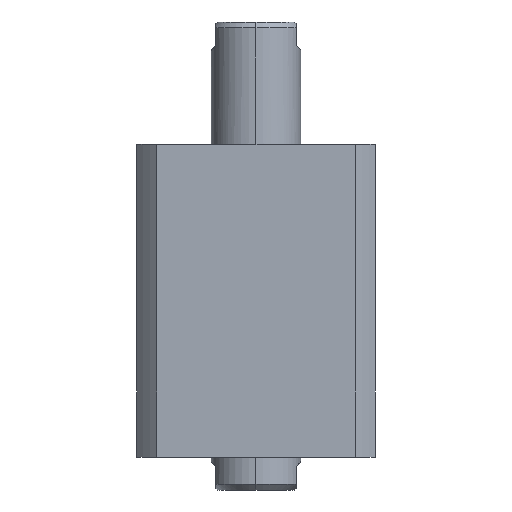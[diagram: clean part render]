
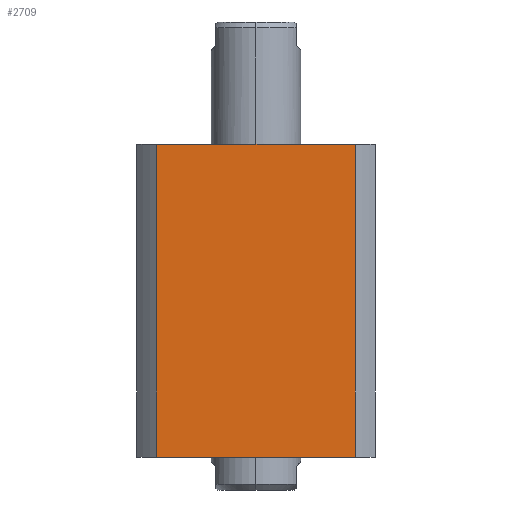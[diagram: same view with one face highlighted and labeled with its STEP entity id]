
A CAD part, left-side view. The second image highlights one B-rep face of the part: STEP entity #2709.
In plain terms, the highlighted planar face has unit normal (-1, 0, 0).
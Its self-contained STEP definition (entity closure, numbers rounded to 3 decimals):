
#120 = VERTEX_POINT ( 'NONE', #5897 ) ;
#772 = DIRECTION ( 'NONE',  ( 0., 1., 0. ) ) ;
#877 = FACE_OUTER_BOUND ( 'NONE', #2185, .T. ) ;
#1147 = CARTESIAN_POINT ( 'NONE',  ( -40., 33.226, 52.5 ) ) ;
#1271 = CARTESIAN_POINT ( 'NONE',  ( -40., 33.226, 52.5 ) ) ;
#2136 = LINE ( 'NONE', #1147, #9007 ) ;
#2158 = EDGE_CURVE ( 'NONE', #5864, #4038, #9771, .T. ) ;
#2172 = ORIENTED_EDGE ( 'NONE', *, *, #2158, .F. ) ;
#2185 = EDGE_LOOP ( 'NONE', ( #8942, #5099, #2172, #2881 ) ) ;
#2312 = DIRECTION ( 'NONE',  ( 0., -1., 0. ) ) ;
#2367 = DIRECTION ( 'NONE',  ( 1., 0., 0. ) ) ;
#2596 = CARTESIAN_POINT ( 'NONE',  ( -40., 33.226, -52.5 ) ) ;
#2709 = ADVANCED_FACE ( 'NONE', ( #877 ), #9069, .F. ) ;
#2881 = ORIENTED_EDGE ( 'NONE', *, *, #5206, .T. ) ;
#3027 = CARTESIAN_POINT ( 'NONE',  ( -40., 33.226, -52.5 ) ) ;
#3410 = VECTOR ( 'NONE', #2312, 1000. ) ;
#3423 = AXIS2_PLACEMENT_3D ( 'NONE', #8381, #2367, #772 ) ;
#3656 = LINE ( 'NONE', #4125, #9482 ) ;
#4038 = VERTEX_POINT ( 'NONE', #4520 ) ;
#4125 = CARTESIAN_POINT ( 'NONE',  ( -40., -33.226, 52.5 ) ) ;
#4270 = DIRECTION ( 'NONE',  ( 0., -1., 0. ) ) ;
#4520 = CARTESIAN_POINT ( 'NONE',  ( -40., -33.226, 52.5 ) ) ;
#4852 = DIRECTION ( 'NONE',  ( 0., 0., -1. ) ) ;
#5099 = ORIENTED_EDGE ( 'NONE', *, *, #5261, .F. ) ;
#5206 = EDGE_CURVE ( 'NONE', #5864, #7355, #2136, .T. ) ;
#5261 = EDGE_CURVE ( 'NONE', #4038, #120, #3656, .T. ) ;
#5417 = LINE ( 'NONE', #3027, #3410 ) ;
#5520 = VECTOR ( 'NONE', #4270, 1000. ) ;
#5864 = VERTEX_POINT ( 'NONE', #1271 ) ;
#5897 = CARTESIAN_POINT ( 'NONE',  ( -40., -33.226, -52.5 ) ) ;
#6288 = EDGE_CURVE ( 'NONE', #7355, #120, #5417, .T. ) ;
#7355 = VERTEX_POINT ( 'NONE', #2596 ) ;
#7938 = CARTESIAN_POINT ( 'NONE',  ( -40., 33.226, 52.5 ) ) ;
#8381 = CARTESIAN_POINT ( 'NONE',  ( -40., 33.226, 52.5 ) ) ;
#8729 = DIRECTION ( 'NONE',  ( 0., 0., -1. ) ) ;
#8942 = ORIENTED_EDGE ( 'NONE', *, *, #6288, .T. ) ;
#9007 = VECTOR ( 'NONE', #4852, 1000. ) ;
#9069 = PLANE ( 'NONE',  #3423 ) ;
#9482 = VECTOR ( 'NONE', #8729, 1000. ) ;
#9771 = LINE ( 'NONE', #7938, #5520 ) ;
